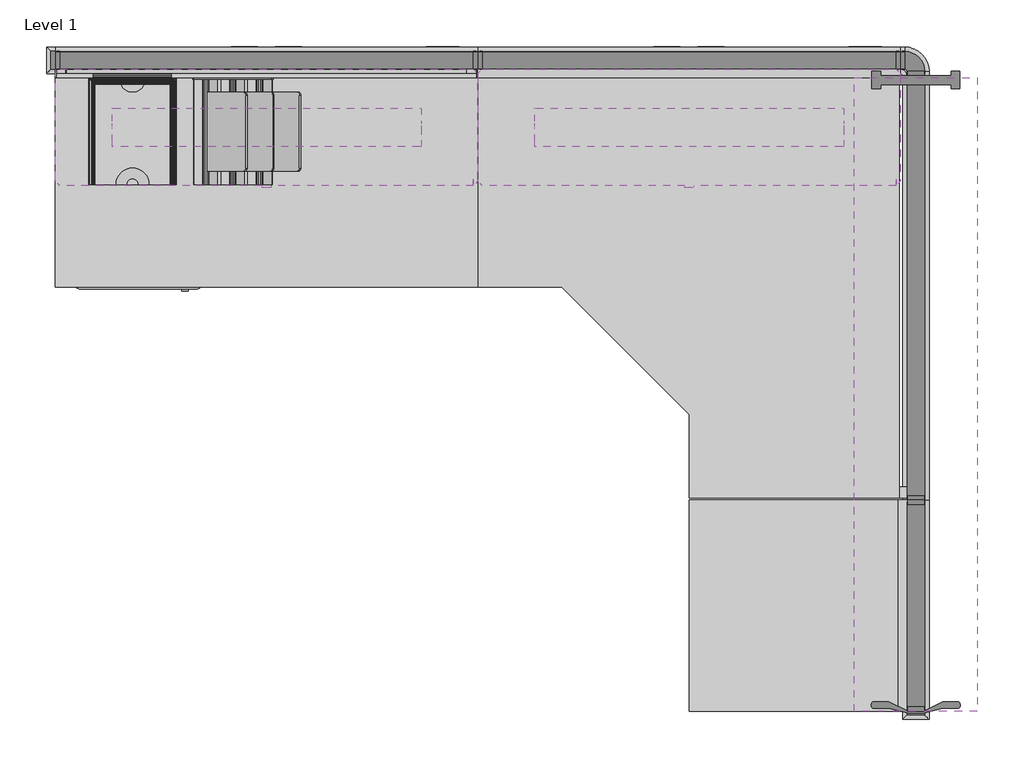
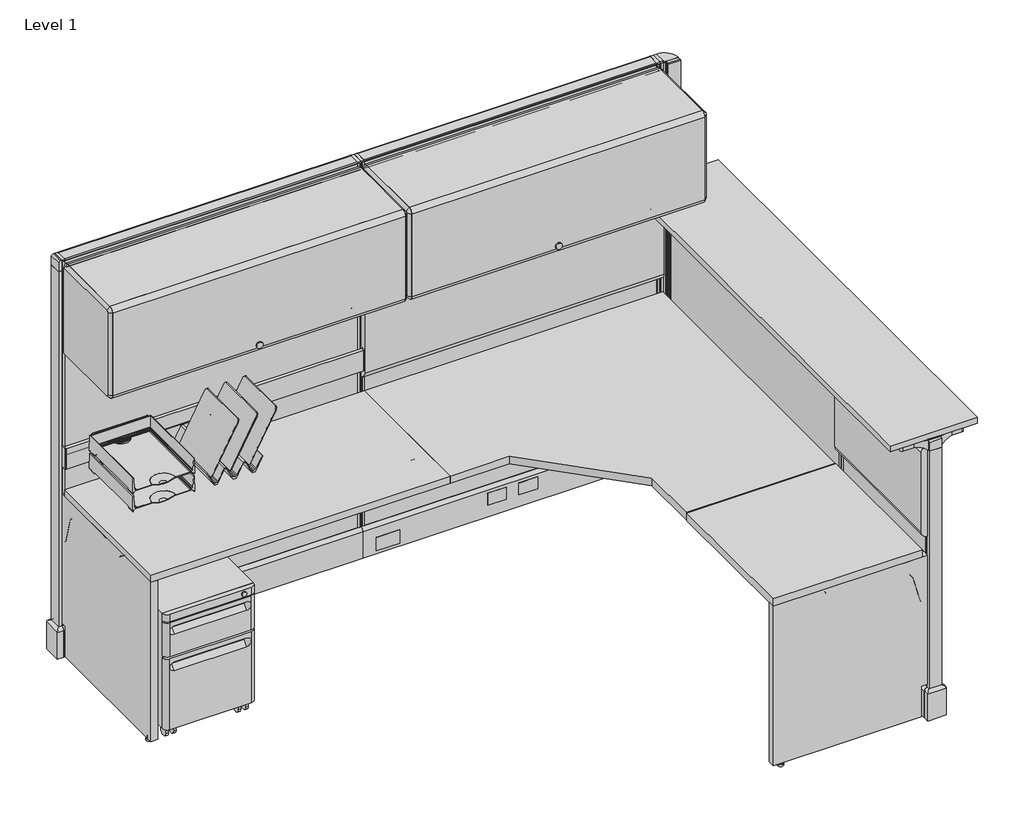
# One storey, incomplete: 24 furniture elements, 2 light fixtures.
"""IFC4 building model written with IfcOpenShell, lengths in millimetres."""

from ifc_helpers import new_model, si_unit, origin, place, context, project, spatial, transform, mapped, element, save
from components import furniture_75fc3fe0, furniture_a2665887, furniture_f058e72c, furniture_3fd57688, furniture_6098a880, furniture_d4c6b201, furniture_db9437f5, furniture_22e63fa4, furniture_4f6b2c6c, furniture_061b7ed1, furniture_cb78dd66, furniture_083a197f, furniture_8ad8b8e1, furniture_f221023d, furniture_84c54a78, furniture_b7c7402d, furniture_d0aba1ae, furniture_3045a4df, furniture_5c2546f9, furniture_ba981915, mid_end_35fd1d4e, light_fixture_5a12cc18

model = new_model("IFC4")

# Units and contexts
model_context = context("Model", 3, world=origin())
ifc_project = project(units=[si_unit("LENGTHUNIT", "METRE", prefix="MILLI")], contexts=[model_context])

# Site, building, storey
site = spatial("IfcSite", under=ifc_project)
building = spatial("IfcBuilding", under=site)
storey = spatial("IfcBuildingStorey", under=building, Name="Level 1", Elevation=0.0)

# Furniture
placement = place(None, origin())
furniture_shape = furniture_75fc3fe0(model_context)
element("IfcFurniture", 1, ObjectType="HermanMiller_ThrivePortfolio_Y7218_DiagonalTray : 8 1/2\"H x 12\"D x 13\"W", at=placement, inside=storey, context=model_context, shape_type="MappedRepresentation", body=[
    mapped(furniture_shape, transform((512.416817, -230.22052, 0.0), x_axis=(1.0, 0.0, 0.0), y_axis=(0.0, 1.0, 0.0), z_axis=(0.0, 0.0, 1.0))),
])
furniture_2_shape = furniture_a2665887(model_context)
element("IfcFurniture", 2, ObjectType="HermanMiller_ThrivePortfolio_Y7216_PaperTray : 3\"H x 12\"D x 10\"W", at=placement, inside=storey, context=model_context, shape_type="MappedRepresentation", body=[
    mapped(furniture_2_shape, transform((222.4024, -230.22052, 0.0), x_axis=(1.0, 0.0, 0.0), y_axis=(0.0, 1.0, 0.0), z_axis=(0.0, 0.0, 1.0))),
])
furniture_3_shape = furniture_f058e72c(model_context)
element("IfcFurniture", 3, ObjectType="HermanMiller_ThrivePortfolio_Y7216_PaperTray : 3\"H x 12\"D x 10\"W", at=placement, inside=storey, context=model_context, shape_type="MappedRepresentation", body=[
    mapped(furniture_3_shape, transform((222.4024, -230.22052, 0.0), x_axis=(1.0, 0.0, 0.0), y_axis=(0.0, 1.0, 0.0), z_axis=(0.0, 0.0, 1.0))),
])
furniture_4_shape = furniture_3fd57688(model_context)
element("IfcFurniture", 4, ObjectType="HermanMiller_ActionOffice_A2830_Sq-EdgeTransactionSurfaceRectangularEnd : 14\"D x 72\"W", at=placement, inside=storey, context=model_context, shape_type="MappedRepresentation", body=[
    mapped(furniture_4_shape, transform((2660.65, -990.6, 0.0), x_axis=(0.0, -1.0, 0.0), y_axis=(1.0, 0.0, 0.0), z_axis=(0.0, 0.0, 1.0))),
])
furniture_5_shape = furniture_6098a880(model_context)
element("IfcFurniture", 5, ObjectType="HermanMiller_ActionOffice_A3352_B-StyleFlipperDoorUnit : 15 1/2\"H x 13\"D x 48\"W", at=placement, inside=storey, context=model_context, shape_type="MappedRepresentation", body=[
    mapped(furniture_5_shape, transform((1828.8, -231.775, 0.0), x_axis=(1.0, 0.0, 0.0), y_axis=(0.0, 1.0, 0.0), z_axis=(0.0, 0.0, 1.0))),
])
element("IfcFurniture", 6, ObjectType="HermanMiller_ActionOffice_A3352_B-StyleFlipperDoorUnit : 15 1/2\"H x 13\"D x 48\"W", at=placement, inside=storey, context=model_context, shape_type="MappedRepresentation", body=[
    mapped(furniture_5_shape, transform((609.6, -231.775, 0.0), x_axis=(1.0, 0.0, 0.0), y_axis=(0.0, 1.0, 0.0), z_axis=(0.0, 0.0, 1.0))),
])
furniture_6_shape = furniture_d4c6b201(model_context)
element("IfcFurniture", 7, ObjectType="HermanMiller_ActionOffice_A2310_Sq-EdgeRectangularWorkSurface : 24\"D x 24\"W", at=placement, inside=storey, context=model_context, shape_type="MappedRepresentation", body=[
    mapped(furniture_6_shape, transform((2143.125, -1600.2, 0.0), x_axis=(0.0, -1.0, 0.0), y_axis=(1.0, 0.0, 0.0), z_axis=(0.0, 0.0, 1.0))),
])
furniture_7_shape = furniture_db9437f5(model_context)
element("IfcFurniture", 8, ObjectType="HermanMiller_ActionOffice_A2332_Sq-EdgeCornerWorkSurface : 24\"D x 48\"W", at=placement, inside=storey, context=model_context, shape_type="MappedRepresentation", body=[
    mapped(furniture_7_shape, transform((1673.225, -812.8, 0.0), x_axis=(0.0, -1.0, 0.0), y_axis=(1.0, 0.0, 0.0), z_axis=(0.0, 0.0, 1.0))),
])
furniture_8_shape = furniture_22e63fa4(model_context)
element("IfcFurniture", 9, ObjectType="HermanMiller_ActionOffice_A1110_Hard-SurfacedPanelStandardBase : 47\"H x 24\"W-N", at=placement, inside=storey, context=model_context, shape_type="MappedRepresentation", body=[
    mapped(furniture_8_shape, transform((2482.85, -1600.2, 0.0), x_axis=(0.0, -1.0, 0.0), y_axis=(1.0, 0.0, 0.0), z_axis=(0.0, 0.0, 1.0))),
])
furniture_9_shape = furniture_4f6b2c6c(model_context)
element("IfcFurniture", 10, ObjectType="HermanMiller_ActionOffice_A1110_Hard-SurfacedPanelStandardBase : 47\"H x 48\"W-N", at=placement, inside=storey, context=model_context, shape_type="MappedRepresentation", body=[
    mapped(furniture_9_shape, transform((2482.85, -685.8, 0.0), x_axis=(0.0, -1.0, 0.0), y_axis=(1.0, 0.0, 0.0), z_axis=(0.0, 0.0, 1.0))),
])
furniture_10_shape = furniture_061b7ed1(model_context)
element("IfcFurniture", 11, ObjectType="HermanMiller_ActionOffice_A3410_B-StyleTackboard : 16\"H x 24\"W", at=placement, inside=storey, context=model_context, shape_type="MappedRepresentation", body=[
    mapped(furniture_10_shape, transform((2444.75, -1600.2, 0.0), x_axis=(0.0, -1.0, 0.0), y_axis=(1.0, 0.0, 0.0), z_axis=(0.0, 0.0, 1.0))),
])
furniture_11_shape = furniture_cb78dd66(model_context)
element("IfcFurniture", 12, ObjectType="HermanMiller_ActionOffice_A3410_B-StyleTackboard : 16\"H x 48\"W", at=placement, inside=storey, context=model_context, shape_type="MappedRepresentation", body=[
    mapped(furniture_11_shape, transform((1828.8, -63.5, 0.0), x_axis=(1.0, 0.0, 0.0), y_axis=(0.0, 1.0, 0.0), z_axis=(0.0, 0.0, 1.0))),
])
furniture_12_shape = furniture_083a197f(model_context)
element("IfcFurniture", 13, ObjectType="HermanMiller_ActionOffice_A2310_Sq-EdgeRectangularWorkSurface : 24\"D x 48\"W", at=placement, inside=storey, context=model_context, shape_type="MappedRepresentation", body=[
    mapped(furniture_12_shape, transform((609.6, -365.125, 0.0), x_axis=(1.0, 0.0, 0.0), y_axis=(0.0, 1.0, 0.0), z_axis=(0.0, 0.0, 1.0))),
])
furniture_13_shape = furniture_8ad8b8e1(model_context)
element("IfcFurniture", 14, ObjectType="HermanMiller_ActionOffice_A3610_ToolBar : 4\"H x 48\"W", at=placement, inside=storey, context=model_context, shape_type="MappedRepresentation", body=[
    mapped(furniture_13_shape, transform((609.6, -63.4999996, 0.0), x_axis=(1.0, 0.0, 0.0), y_axis=(0.0, 1.0, 0.0), z_axis=(0.0, 0.0, 1.0))),
])
furniture_14_shape = furniture_f221023d(model_context)
element("IfcFurniture", 15, ObjectType="HermanMiller_ActionOffice_A1110_Hard-SurfacedPanelStandardBase : 67\"H x 48\"W-G", at=placement, inside=storey, context=model_context, shape_type="MappedRepresentation", body=[
    mapped(furniture_14_shape, transform((1828.8, -25.4, 0.0), x_axis=(1.0, 0.0, 0.0), y_axis=(0.0, 1.0, 0.0), z_axis=(0.0, 0.0, 1.0))),
])
element("IfcFurniture", 16, ObjectType="HermanMiller_ActionOffice_A1110_Hard-SurfacedPanelStandardBase : 67\"H x 48\"W-G", at=placement, inside=storey, context=model_context, shape_type="MappedRepresentation", body=[
    mapped(furniture_14_shape, transform((609.6, -25.4, 0.0), x_axis=(1.0, 0.0, 0.0), y_axis=(0.0, 1.0, 0.0), z_axis=(0.0, 0.0, 1.0))),
])
furniture_15_shape = furniture_84c54a78(model_context)
element("IfcFurniture", 17, ObjectType="HermanMiller_QuadrantFiling_G5111_MobilePedestal : 21-1/2\"H x 20\"D x 15\"W BF", at=placement, inside=storey, context=model_context, shape_type="MappedRepresentation", body=[
    mapped(furniture_15_shape, transform((239.44326, -422.132763, 0.0), x_axis=(1.0, 0.0, 0.0), y_axis=(0.0, 1.0, 0.0), z_axis=(0.0, 0.0, 1.0))),
])
furniture_16_shape = furniture_b7c7402d(model_context)
element("IfcFurniture", 18, ObjectType="HermanMiller_ActionOffice_A2380_WorkSuraceSupportPanelEnd : 24\"D", at=placement, inside=storey, context=model_context, shape_type="MappedRepresentation", body=[
    mapped(furniture_16_shape, transform((1828.8, -1876.425, 0.0), x_axis=(0.0, -1.0, 0.0), y_axis=(1.0, 0.0, 0.0), z_axis=(0.0, 0.0, 1.0))),
])
element("IfcFurniture", 19, ObjectType="HermanMiller_ActionOffice_A2380_WorkSuraceSupportPanelEnd : 24\"D", at=placement, inside=storey, context=model_context, shape_type="MappedRepresentation", body=[
    mapped(furniture_16_shape, transform((0.0, -679.45, 0.0), x_axis=(1.0, 0.0, 0.0), y_axis=(0.0, 1.0, 0.0), z_axis=(0.0, 0.0, 1.0))),
])
furniture_17_shape = furniture_d0aba1ae(model_context)
element("IfcFurniture", 20, ObjectType="HermanMiller_ActionOffice_AO259_AO272_FinishedEndChangeOfHeight : 32\"H Panel/Conn", at=placement, inside=storey, context=model_context, shape_type="MappedRepresentation", body=[
    mapped(furniture_17_shape, transform((2403.2790033, -136.7209967, 0.0), x_axis=(0.0, -1.0, 0.0), y_axis=(1.0, 0.0, 0.0), z_axis=(0.0, 0.0, 1.0))),
])
furniture_18_shape = furniture_3045a4df(model_context)
element("IfcFurniture", 21, ObjectType="HermanMiller_ActionOffice_A1271_FinishedEndStandardBase : 47\"H Trans End Spt", at=placement, inside=storey, context=model_context, shape_type="MappedRepresentation", body=[
    mapped(furniture_18_shape, transform((4931.5887877, 81.8950819, 0.0), x_axis=(0.0, -1.0, 0.0), y_axis=(1.0, 0.0, 0.0), z_axis=(0.0, 0.0, 1.0))),
])
furniture_19_shape = furniture_5c2546f9(model_context)
element("IfcFurniture", 22, ObjectType="HermanMiller_ActionOffice_A1271_FinishedEndStandardBase : 67\"H", at=placement, inside=storey, context=model_context, shape_type="MappedRepresentation", body=[
    mapped(furniture_19_shape, transform((1984.8560512, -2474.0854477, 0.0), x_axis=(-1.0, 0.0, 0.0), y_axis=(0.0, -1.0, 0.0), z_axis=(0.0, 0.0, 1.0))),
])
furniture_20_shape = furniture_ba981915(model_context)
element("IfcFurniture", 23, ObjectType="HermanMiller_ActionOffice_A1220_90ConnectorStandardBase : 67\"H 2-Way-Hard", at=placement, inside=storey, context=model_context, shape_type="MappedRepresentation", body=[
    mapped(furniture_20_shape, transform((2476.5, -39.9139414, 0.0), x_axis=(1.0, 0.0, 0.0), y_axis=(0.0, 1.0, 0.0), z_axis=(0.0, 0.0, 1.0))),
])
mid_end_shape = mid_end_35fd1d4e(model_context)
element("IfcFurniture", 24, ObjectType="HermanMiller_ActionOffice_AO460-AO464_TransactionSurfaceSupport : Mid-End", at=placement, inside=storey, context=model_context, shape_type="MappedRepresentation", body=[
    mapped(mid_end_shape, transform((2473.325, -1631.9500011, 0.0), x_axis=(0.0, 1.0, 0.0), y_axis=(-1.0, 0.0, 0.0), z_axis=(0.0, 0.0, 1.0))),
])

# Light fixtures
light_fixture_shape = light_fixture_5a12cc18(model_context)
element("IfcLightFixture", 25, ObjectType="HermanMiller_SupplementalProducts_G6136_UtilityTaskLight : AO Etho Canvas 42W", at=placement, inside=storey, context=model_context, shape_type="MappedRepresentation", body=[
    mapped(light_fixture_shape, transform((1828.8, -219.075, 0.0), x_axis=(1.0, 0.0, 0.0), y_axis=(0.0, 1.0, 0.0), z_axis=(0.0, 0.0, 1.0))),
])
element("IfcLightFixture", 26, ObjectType="HermanMiller_SupplementalProducts_G6136_UtilityTaskLight : AO Etho Canvas 42W", at=placement, inside=storey, context=model_context, shape_type="MappedRepresentation", body=[
    mapped(light_fixture_shape, transform((609.6, -219.075, 0.0), x_axis=(1.0, 0.0, 0.0), y_axis=(0.0, 1.0, 0.0), z_axis=(0.0, 0.0, 1.0))),
])

save(model, "model.ifc")
